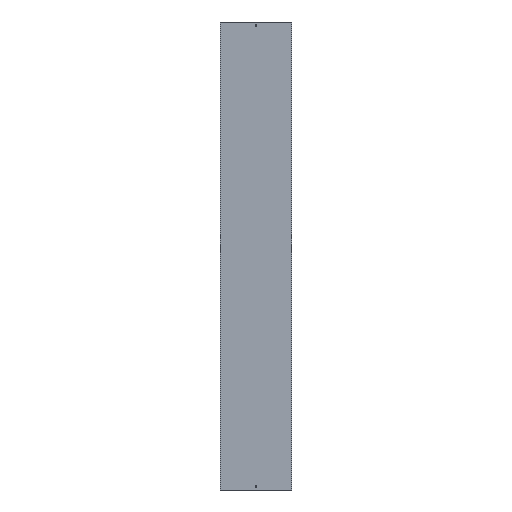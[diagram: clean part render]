
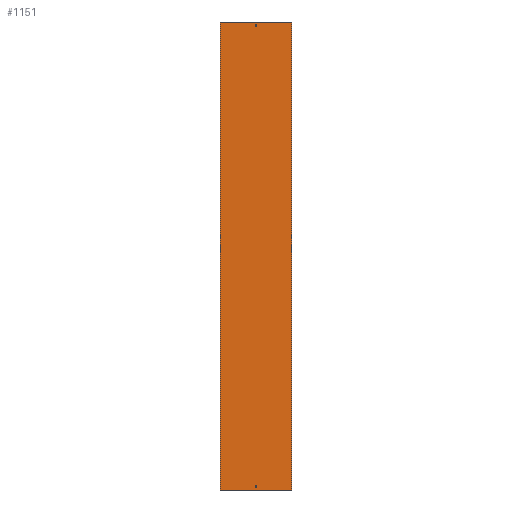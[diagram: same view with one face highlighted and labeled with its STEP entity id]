
A CAD part, front view. The second image highlights one B-rep face of the part: STEP entity #1151.
In plain terms, the highlighted planar face has unit normal (0, -1, 0).
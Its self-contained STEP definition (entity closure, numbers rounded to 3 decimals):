
#21 = LINE ( 'NONE', #951, #306 ) ;
#36 = ORIENTED_EDGE ( 'NONE', *, *, #467, .F. ) ;
#44 = EDGE_CURVE ( 'NONE', #618, #633, #1466, .T. ) ;
#53 = DIRECTION ( 'NONE',  ( 1., 0., 0. ) ) ;
#57 = CARTESIAN_POINT ( 'NONE',  ( 3.25, 0., 988. ) ) ;
#75 = LINE ( 'NONE', #846, #199 ) ;
#117 = ORIENTED_EDGE ( 'NONE', *, *, #157, .F. ) ;
#121 = CARTESIAN_POINT ( 'NONE',  ( -152., 0., 1000. ) ) ;
#135 = VERTEX_POINT ( 'NONE', #1589 ) ;
#156 = FACE_BOUND ( 'NONE', #919, .T. ) ;
#157 = EDGE_CURVE ( 'NONE', #482, #1396, #21, .T. ) ;
#179 = CARTESIAN_POINT ( 'NONE',  ( -152., 0., 1000. ) ) ;
#199 = VECTOR ( 'NONE', #1602, 1000. ) ;
#201 = LINE ( 'NONE', #595, #417 ) ;
#208 = ORIENTED_EDGE ( 'NONE', *, *, #499, .T. ) ;
#215 = EDGE_CURVE ( 'NONE', #698, #1028, #584, .T. ) ;
#226 = VERTEX_POINT ( 'NONE', #340 ) ;
#237 = CARTESIAN_POINT ( 'NONE',  ( -3.25, 0., -988. ) ) ;
#255 = CARTESIAN_POINT ( 'NONE',  ( 3.25, 0., -979. ) ) ;
#277 = CARTESIAN_POINT ( 'NONE',  ( 3.25, 0., -988. ) ) ;
#284 = DIRECTION ( 'NONE',  ( 0., 0., -1. ) ) ;
#285 = EDGE_CURVE ( 'NONE', #1454, #675, #347, .T. ) ;
#306 = VECTOR ( 'NONE', #53, 1000. ) ;
#309 = LINE ( 'NONE', #179, #1440 ) ;
#313 = DIRECTION ( 'NONE',  ( -1., 0., 0. ) ) ;
#325 = DIRECTION ( 'NONE',  ( 0., 0., -1. ) ) ;
#340 = CARTESIAN_POINT ( 'NONE',  ( -3.25, 0., -988. ) ) ;
#347 = LINE ( 'NONE', #861, #357 ) ;
#357 = VECTOR ( 'NONE', #325, 1000. ) ;
#365 = EDGE_CURVE ( 'NONE', #1028, #226, #642, .T. ) ;
#408 = ORIENTED_EDGE ( 'NONE', *, *, #451, .F. ) ;
#410 = EDGE_CURVE ( 'NONE', #135, #675, #1007, .T. ) ;
#417 = VECTOR ( 'NONE', #1503, 1000. ) ;
#423 = CARTESIAN_POINT ( 'NONE',  ( -152., 0., -1000. ) ) ;
#426 = DIRECTION ( 'NONE',  ( 0., 1., 0. ) ) ;
#451 = EDGE_CURVE ( 'NONE', #1396, #618, #1577, .T. ) ;
#467 = EDGE_CURVE ( 'NONE', #633, #482, #1430, .T. ) ;
#482 = VERTEX_POINT ( 'NONE', #1077 ) ;
#499 = EDGE_CURVE ( 'NONE', #701, #135, #309, .T. ) ;
#551 = ORIENTED_EDGE ( 'NONE', *, *, #44, .F. ) ;
#574 = VECTOR ( 'NONE', #1207, 1000. ) ;
#584 = LINE ( 'NONE', #1626, #977 ) ;
#593 = EDGE_CURVE ( 'NONE', #1174, #698, #201, .T. ) ;
#595 = CARTESIAN_POINT ( 'NONE',  ( -3.25, 0., -979. ) ) ;
#598 = VECTOR ( 'NONE', #1653, 1000. ) ;
#618 = VERTEX_POINT ( 'NONE', #57 ) ;
#623 = VECTOR ( 'NONE', #694, 1000. ) ;
#633 = VERTEX_POINT ( 'NONE', #1610 ) ;
#642 = LINE ( 'NONE', #237, #1061 ) ;
#655 = VECTOR ( 'NONE', #1341, 1000. ) ;
#671 = CARTESIAN_POINT ( 'NONE',  ( -152., 0., 1000. ) ) ;
#675 = VERTEX_POINT ( 'NONE', #778 ) ;
#689 = DIRECTION ( 'NONE',  ( -1., 0., 0. ) ) ;
#694 = DIRECTION ( 'NONE',  ( 1., 0., 0. ) ) ;
#698 = VERTEX_POINT ( 'NONE', #255 ) ;
#701 = VERTEX_POINT ( 'NONE', #995 ) ;
#730 = CARTESIAN_POINT ( 'NONE',  ( -3.25, 0., -979. ) ) ;
#768 = ORIENTED_EDGE ( 'NONE', *, *, #215, .T. ) ;
#777 = EDGE_LOOP ( 'NONE', ( #1046, #1075, #768, #1269 ) ) ;
#778 = CARTESIAN_POINT ( 'NONE',  ( 152., 0., -1000. ) ) ;
#781 = DIRECTION ( 'NONE',  ( -1., 0., 0. ) ) ;
#784 = LINE ( 'NONE', #121, #598 ) ;
#846 = CARTESIAN_POINT ( 'NONE',  ( -3.25, 0., -988. ) ) ;
#861 = CARTESIAN_POINT ( 'NONE',  ( 152., 0., 1000. ) ) ;
#919 = EDGE_LOOP ( 'NONE', ( #117, #36, #551, #408 ) ) ;
#936 = CARTESIAN_POINT ( 'NONE',  ( -3.25, 0., 988. ) ) ;
#951 = CARTESIAN_POINT ( 'NONE',  ( -3.25, 0., 979. ) ) ;
#970 = EDGE_CURVE ( 'NONE', #701, #1454, #784, .T. ) ;
#977 = VECTOR ( 'NONE', #1497, 1000. ) ;
#995 = CARTESIAN_POINT ( 'NONE',  ( -152., 0., 1000. ) ) ;
#1007 = LINE ( 'NONE', #423, #623 ) ;
#1028 = VERTEX_POINT ( 'NONE', #277 ) ;
#1039 = AXIS2_PLACEMENT_3D ( 'NONE', #671, #426, #313 ) ;
#1046 = ORIENTED_EDGE ( 'NONE', *, *, #1563, .T. ) ;
#1061 = VECTOR ( 'NONE', #781, 1000. ) ;
#1075 = ORIENTED_EDGE ( 'NONE', *, *, #593, .T. ) ;
#1077 = CARTESIAN_POINT ( 'NONE',  ( -3.25, 0., 979. ) ) ;
#1113 = ORIENTED_EDGE ( 'NONE', *, *, #970, .F. ) ;
#1151 = ADVANCED_FACE ( 'NONE', ( #1597, #156, #1581 ), #1468, .F. ) ;
#1173 = CARTESIAN_POINT ( 'NONE',  ( 152., 0., 1000. ) ) ;
#1174 = VERTEX_POINT ( 'NONE', #730 ) ;
#1207 = DIRECTION ( 'NONE',  ( 0., 0., -1. ) ) ;
#1211 = ORIENTED_EDGE ( 'NONE', *, *, #410, .T. ) ;
#1269 = ORIENTED_EDGE ( 'NONE', *, *, #365, .T. ) ;
#1341 = DIRECTION ( 'NONE',  ( 0., 0., 1. ) ) ;
#1390 = CARTESIAN_POINT ( 'NONE',  ( 3.25, 0., 979. ) ) ;
#1396 = VERTEX_POINT ( 'NONE', #1390 ) ;
#1430 = LINE ( 'NONE', #936, #574 ) ;
#1440 = VECTOR ( 'NONE', #284, 1000. ) ;
#1442 = CARTESIAN_POINT ( 'NONE',  ( -3.25, 0., 988. ) ) ;
#1448 = CARTESIAN_POINT ( 'NONE',  ( 3.25, 0., 988. ) ) ;
#1454 = VERTEX_POINT ( 'NONE', #1173 ) ;
#1465 = VECTOR ( 'NONE', #689, 1000. ) ;
#1466 = LINE ( 'NONE', #1442, #1465 ) ;
#1468 = PLANE ( 'NONE',  #1039 ) ;
#1497 = DIRECTION ( 'NONE',  ( 0., 0., -1. ) ) ;
#1503 = DIRECTION ( 'NONE',  ( 1., 0., 0. ) ) ;
#1563 = EDGE_CURVE ( 'NONE', #226, #1174, #75, .T. ) ;
#1577 = LINE ( 'NONE', #1448, #655 ) ;
#1581 = FACE_BOUND ( 'NONE', #777, .T. ) ;
#1589 = CARTESIAN_POINT ( 'NONE',  ( -152., 0., -1000. ) ) ;
#1597 = FACE_OUTER_BOUND ( 'NONE', #1646, .T. ) ;
#1602 = DIRECTION ( 'NONE',  ( 0., 0., 1. ) ) ;
#1610 = CARTESIAN_POINT ( 'NONE',  ( -3.25, 0., 988. ) ) ;
#1626 = CARTESIAN_POINT ( 'NONE',  ( 3.25, 0., -988. ) ) ;
#1646 = EDGE_LOOP ( 'NONE', ( #1211, #1669, #1113, #208 ) ) ;
#1653 = DIRECTION ( 'NONE',  ( 1., 0., 0. ) ) ;
#1669 = ORIENTED_EDGE ( 'NONE', *, *, #285, .F. ) ;
